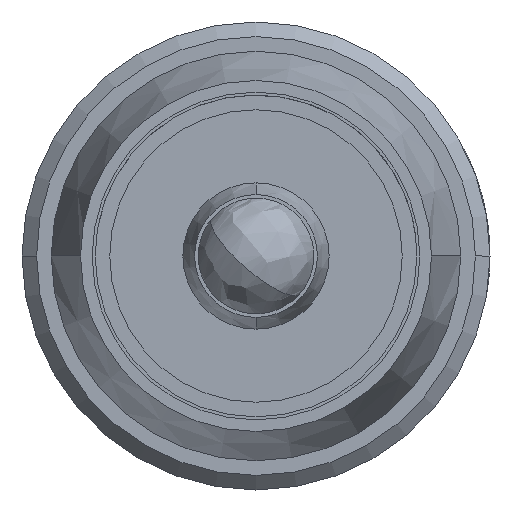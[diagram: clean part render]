
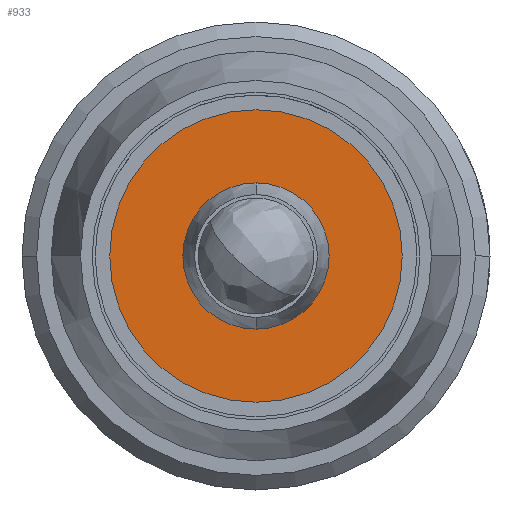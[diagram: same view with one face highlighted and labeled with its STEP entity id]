
A CAD part, left-side view. The second image highlights one B-rep face of the part: STEP entity #933.
In plain terms, the highlighted planar face has unit normal (-1, 0, 0).
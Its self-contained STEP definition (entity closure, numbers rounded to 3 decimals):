
#862 = EDGE_CURVE ( 'NONE', #1587, #1586, #4673, .T. ) ;
#888 = EDGE_LOOP ( 'NONE', ( #889, #890 ) ) ;
#889 = ORIENTED_EDGE ( 'NONE', *, *, #1969, .F. ) ;
#890 = ORIENTED_EDGE ( 'NONE', *, *, #891, .F. ) ;
#891 = EDGE_CURVE ( 'NONE', #1971, #1970, #4731, .T. ) ;
#933 = ADVANCED_FACE ( 'NONE', ( #4818, #4817 ), #4816, .T. ) ;
#934 = EDGE_LOOP ( 'NONE', ( #935, #936 ) ) ;
#935 = ORIENTED_EDGE ( 'NONE', *, *, #862, .T. ) ;
#936 = ORIENTED_EDGE ( 'NONE', *, *, #1585, .T. ) ;
#1585 = EDGE_CURVE ( 'NONE', #1586, #1587, #6448, .T. ) ;
#1586 = VERTEX_POINT ( 'NONE', #6474 ) ;
#1587 = VERTEX_POINT ( 'NONE', #6473 ) ;
#1969 = EDGE_CURVE ( 'NONE', #1970, #1971, #7507, .T. ) ;
#1970 = VERTEX_POINT ( 'NONE', #7502 ) ;
#1971 = VERTEX_POINT ( 'NONE', #7501 ) ;
#4670 = DIRECTION ( 'NONE',  ( 0., 1., 0. ) ) ;
#4671 = DIRECTION ( 'NONE',  ( 1., 0., 0. ) ) ;
#4672 = AXIS2_PLACEMENT_3D ( 'NONE', #4678, #4671, #4670 ) ;
#4673 = CIRCLE ( 'NONE', #4672, 2.5 ) ;
#4678 = CARTESIAN_POINT ( 'NONE',  ( -37.881, 4.117, 0. ) ) ;
#4727 = DIRECTION ( 'NONE',  ( 0., 1., 0. ) ) ;
#4728 = DIRECTION ( 'NONE',  ( 1., 0., 0. ) ) ;
#4729 = CARTESIAN_POINT ( 'NONE',  ( -37.881, 4.117, 0. ) ) ;
#4730 = AXIS2_PLACEMENT_3D ( 'NONE', #4729, #4728, #4727 ) ;
#4731 = CIRCLE ( 'NONE', #4730, 5. ) ;
#4812 = DIRECTION ( 'NONE',  ( 0., -1., 0. ) ) ;
#4813 = DIRECTION ( 'NONE',  ( -1., 0., 0. ) ) ;
#4814 = CARTESIAN_POINT ( 'NONE',  ( -37.881, 0.646, 1.421 ) ) ;
#4815 = AXIS2_PLACEMENT_3D ( 'NONE', #4814, #4813, #4812 ) ;
#4816 = PLANE ( 'NONE',  #4815 ) ;
#4817 = FACE_OUTER_BOUND ( 'NONE', #888, .T. ) ;
#4818 = FACE_BOUND ( 'NONE', #934, .T. ) ;
#6447 = CARTESIAN_POINT ( 'NONE',  ( -37.881, 4.117, 0. ) ) ;
#6448 = CIRCLE ( 'NONE', #6477, 2.5 ) ;
#6473 = CARTESIAN_POINT ( 'NONE',  ( -37.881, 6.617, 0. ) ) ;
#6474 = CARTESIAN_POINT ( 'NONE',  ( -37.881, 1.617, 0. ) ) ;
#6475 = DIRECTION ( 'NONE',  ( 0., 1., 0. ) ) ;
#6476 = DIRECTION ( 'NONE',  ( 1., 0., 0. ) ) ;
#6477 = AXIS2_PLACEMENT_3D ( 'NONE', #6447, #6476, #6475 ) ;
#7501 = CARTESIAN_POINT ( 'NONE',  ( -37.881, -0.883, 0. ) ) ;
#7502 = CARTESIAN_POINT ( 'NONE',  ( -37.881, 9.117, 0. ) ) ;
#7503 = DIRECTION ( 'NONE',  ( 0., 1., 0. ) ) ;
#7504 = DIRECTION ( 'NONE',  ( 1., 0., 0. ) ) ;
#7505 = CARTESIAN_POINT ( 'NONE',  ( -37.881, 4.117, 0. ) ) ;
#7506 = AXIS2_PLACEMENT_3D ( 'NONE', #7505, #7504, #7503 ) ;
#7507 = CIRCLE ( 'NONE', #7506, 5. ) ;
